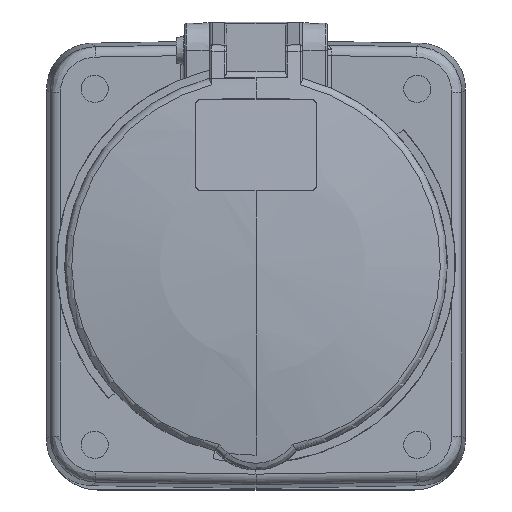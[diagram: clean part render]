
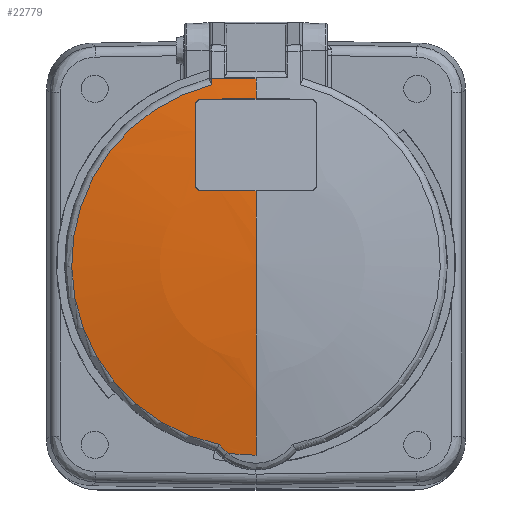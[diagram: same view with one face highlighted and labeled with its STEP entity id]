
A CAD part, top view. The second image highlights one B-rep face of the part: STEP entity #22779.
In plain terms, the highlighted spherical face has radius 250 mm.
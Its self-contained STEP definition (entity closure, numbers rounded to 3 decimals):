
#948=CARTESIAN_POINT('',(-10.521,42.726,72.897));
#949=CARTESIAN_POINT('',(-10.521,42.89,72.869));
#950=CARTESIAN_POINT('',(-10.521,43.217,72.811));
#951=CARTESIAN_POINT('',(-10.521,43.709,72.725));
#952=CARTESIAN_POINT('',(-10.521,44.036,72.666));
#953=CARTESIAN_POINT('',(-10.521,44.2,72.637));
#1152=CARTESIAN_POINT('',(0.,44.2,72.862));
#1153=CARTESIAN_POINT('',(-1.173,44.2,72.862));
#1154=CARTESIAN_POINT('',(-3.502,44.2,72.845));
#1155=CARTESIAN_POINT('',(-7.05,44.201,72.769));
#1156=CARTESIAN_POINT('',(-9.363,44.199,72.686));
#1157=CARTESIAN_POINT('',(-10.521,44.2,72.637));
#1159=CARTESIAN_POINT('',(0.,0.,72.597));
#1160=DIRECTION('',(0.,0.,1.));
#1161=DIRECTION('',(-0.15,-0.989,0.));
#1162=AXIS2_PLACEMENT_3D('',#1159,#1160,#1161);
#1241=CARTESIAN_POINT('',(-13.,17.476,75.849));
#1242=CARTESIAN_POINT('',(-13.109,17.476,75.844));
#1243=CARTESIAN_POINT('',(-13.327,17.499,75.831));
#1244=CARTESIAN_POINT('',(-13.637,17.602,75.806));
#1245=CARTESIAN_POINT('',(-13.921,17.773,75.779));
#1246=CARTESIAN_POINT('',(-14.168,18.008,75.748));
#1247=CARTESIAN_POINT('',(-14.357,18.298,75.716));
#1248=CARTESIAN_POINT('',(-14.474,18.623,75.685));
#1249=CARTESIAN_POINT('',(-14.5,18.852,75.666));
#1250=CARTESIAN_POINT('',(-14.5,18.967,75.657));
#1256=CARTESIAN_POINT('',(0.,0.,-173.2));
#1257=DIRECTION('',(0.,0.988,-0.158));
#1258=DIRECTION('',(-0.052,0.157,0.986));
#1259=AXIS2_PLACEMENT_3D('',#1256,#1257,#1258);
#1261=CARTESIAN_POINT('',(-14.5,0.,-173.2));
#1262=DIRECTION('',(1.,0.,0.));
#1263=DIRECTION('',(0.,0.152,0.988));
#1264=AXIS2_PLACEMENT_3D('',#1261,#1262,#1263);
#1266=CARTESIAN_POINT('',(0.,0.,-173.2));
#1267=DIRECTION('',(0.,-0.998,0.07));
#1268=DIRECTION('',(0.,0.07,0.998));
#1269=AXIS2_PLACEMENT_3D('',#1266,#1267,#1268);
#1271=CARTESIAN_POINT('',(0.,0.,-173.2));
#1272=DIRECTION('',(-1.,0.,0.));
#1273=DIRECTION('',(0.,0.,1.));
#1274=AXIS2_PLACEMENT_3D('',#1271,#1272,#1273);
#1276=CARTESIAN_POINT('',(0.,0.,-173.2));
#1277=DIRECTION('',(1.,0.,0.));
#1278=DIRECTION('',(0.,0.,1.));
#1279=AXIS2_PLACEMENT_3D('',#1276,#1277,#1278);
#1281=CARTESIAN_POINT('',(0.,0.,-173.2));
#1282=DIRECTION('',(-1.,0.,0.));
#1283=DIRECTION('',(0.,0.158,0.988));
#1284=AXIS2_PLACEMENT_3D('',#1281,#1282,#1283);
#1294=CARTESIAN_POINT('',(-14.5,37.83,73.495));
#1295=CARTESIAN_POINT('',(-14.5,37.959,73.476));
#1296=CARTESIAN_POINT('',(-14.466,38.218,73.438));
#1297=CARTESIAN_POINT('',(-14.314,38.581,73.39));
#1298=CARTESIAN_POINT('',(-14.073,38.893,73.355));
#1299=CARTESIAN_POINT('',(-13.759,39.134,73.334));
#1300=CARTESIAN_POINT('',(-13.393,39.288,73.33));
#1301=CARTESIAN_POINT('',(-13.131,39.324,73.339));
#1302=CARTESIAN_POINT('',(-13.,39.325,73.345));
#1316=CARTESIAN_POINT('',(-8.732,-43.127,
72.897));
#1317=CARTESIAN_POINT('',(-8.551,-43.377,
72.86));
#1318=CARTESIAN_POINT('',(-8.169,-43.859,
72.788));
#1319=CARTESIAN_POINT('',(-7.535,-44.531,
72.687));
#1320=CARTESIAN_POINT('',(-7.077,-44.94,
72.626));
#1321=CARTESIAN_POINT('',(-6.84,-45.135,
72.597));
#9475=CARTESIAN_POINT('',(0.,0.,72.897));
#9476=DIRECTION('',(0.,0.,1.));
#9477=DIRECTION('',(-0.239,0.971,0.));
#9478=AXIS2_PLACEMENT_3D('',#9475,#9476,#9477);
#19940=CARTESIAN_POINT('',(0.,0.,76.8));
#19941=CARTESIAN_POINT('',(0.,-45.65,72.597));
#19942=VERTEX_POINT('',#19940);
#19943=VERTEX_POINT('',#19941);
#19948=VERTEX_POINT('',#1316);
#19949=VERTEX_POINT('',#1321);
#19965=VERTEX_POINT('',#948);
#19966=VERTEX_POINT('',#953);
#20025=VERTEX_POINT('',#1152);
#20028=CARTESIAN_POINT('',(0.,17.5,76.187));
#20029=VERTEX_POINT('',#20028);
#20030=CARTESIAN_POINT('',(0.,39.378,
73.679));
#20031=VERTEX_POINT('',#20030);
#20048=CARTESIAN_POINT('',(-14.5,18.967,75.657));
#20050=VERTEX_POINT('',#20048);
#20052=CARTESIAN_POINT('',(-13.,17.476,75.849));
#20053=VERTEX_POINT('',#20052);
#20054=CARTESIAN_POINT('',(-14.5,37.83,73.495));
#20056=VERTEX_POINT('',#20054);
#20058=CARTESIAN_POINT('',(-13.,39.325,73.345));
#20060=VERTEX_POINT('',#20058);
#22755=CARTESIAN_POINT('',(0.,0.,-173.2));
#22756=DIRECTION('',(0.,0.,1.));
#22757=DIRECTION('',(0.,1.,0.));
#22758=AXIS2_PLACEMENT_3D('',#22755,#22756,#22757);
#22759=SPHERICAL_SURFACE('1269',#22758,250.);
#22761=ORIENTED_EDGE('4217',*,*,#22760,.F.);
#22763=ORIENTED_EDGE('4221',*,*,#22762,.F.);
#22764=ORIENTED_EDGE('4215',*,*,#22735,.T.);
#22765=ORIENTED_EDGE('4220',*,*,#22712,.F.);
#22766=ORIENTED_EDGE('4216',*,*,#22572,.F.);
#22767=ORIENTED_EDGE('4194',*,*,#22547,.F.);
#22768=ORIENTED_EDGE('4100',*,*,#22545,.T.);
#22769=ORIENTED_EDGE('4112',*,*,#22543,.F.);
#22771=ORIENTED_EDGE('4102',*,*,#22770,.F.);
#22773=ORIENTED_EDGE('4188',*,*,#22772,.F.);
#22774=ORIENTED_EDGE('4117',*,*,#22146,.T.);
#22775=ORIENTED_EDGE('4152',*,*,#22526,.F.);
#22776=ORIENTED_EDGE('4195',*,*,#22524,.F.);
#22777=EDGE_LOOP('1269',(#22761,#22763,#22764,#22765,#22766,#22767,#22768,
#22769,#22771,#22773,#22774,#22775,#22776));
#22778=FACE_OUTER_BOUND('1269',#22777,.F.);
#954=B_SPLINE_CURVE_WITH_KNOTS('4117',3,(#948,#949,#950,#951,#952,#953),
.UNSPECIFIED.,.F.,.F.,(4,1,1,4),(0.,0.333,0.667,1.),
.UNSPECIFIED.);
#1158=B_SPLINE_CURVE_WITH_KNOTS('4152',3,(#1152,#1153,#1154,#1155,#1156,#1157),
.UNSPECIFIED.,.F.,.F.,(4,1,1,4),(0.,0.333,0.667,1.),
.UNSPECIFIED.);
#1163=CIRCLE('4112',#1162,45.65);
#1251=B_SPLINE_CURVE_WITH_KNOTS('4220',3,(#1241,#1242,#1243,#1244,#1245,#1246,
#1247,#1248,#1249,#1250),.UNSPECIFIED.,.F.,.F.,(4,1,1,1,1,1,1,4),(0.,
0.143,0.286,0.429,0.571,
0.714,0.857,1.),.UNSPECIFIED.);
#1260=CIRCLE('4217',#1259,250.);
#1265=CIRCLE('4215',#1264,249.579);
#1270=CIRCLE('4216',#1269,250.);
#1275=CIRCLE('4194',#1274,250.);
#1280=CIRCLE('4100',#1279,250.);
#1285=CIRCLE('4195',#1284,250.);
#1303=B_SPLINE_CURVE_WITH_KNOTS('4221',3,(#1294,#1295,#1296,#1297,#1298,#1299,
#1300,#1301,#1302),.UNSPECIFIED.,.F.,.F.,(4,1,1,1,1,1,4),(0.,
0.167,0.333,0.5,0.667,0.833,
1.),.UNSPECIFIED.);
#1322=B_SPLINE_CURVE_WITH_KNOTS('4102',3,(#1316,#1317,#1318,#1319,#1320,#1321),
.UNSPECIFIED.,.F.,.F.,(4,1,1,4),(0.,0.333,0.667,1.),
.UNSPECIFIED.);
#9479=CIRCLE('4188',#9478,44.002);
#22146=EDGE_CURVE('4117',#19965,#19966,#954,.T.);
#22524=EDGE_CURVE('4195',#20031,#20025,#1285,.T.);
#22526=EDGE_CURVE('4152',#20025,#19966,#1158,.T.);
#22543=EDGE_CURVE('4112',#19949,#19943,#1163,.T.);
#22545=EDGE_CURVE('4100',#19942,#19943,#1280,.T.);
#22547=EDGE_CURVE('4194',#19942,#20029,#1275,.T.);
#22572=EDGE_CURVE('4216',#20029,#20053,#1270,.T.);
#22712=EDGE_CURVE('4220',#20053,#20050,#1251,.T.);
#22735=EDGE_CURVE('4215',#20056,#20050,#1265,.T.);
#22760=EDGE_CURVE('4217',#20060,#20031,#1260,.T.);
#22762=EDGE_CURVE('4221',#20056,#20060,#1303,.T.);
#22770=EDGE_CURVE('4102',#19948,#19949,#1322,.T.);
#22772=EDGE_CURVE('4188',#19965,#19948,#9479,.T.);
#22779=ADVANCED_FACE('1269',(#22778),#22759,.T.);
